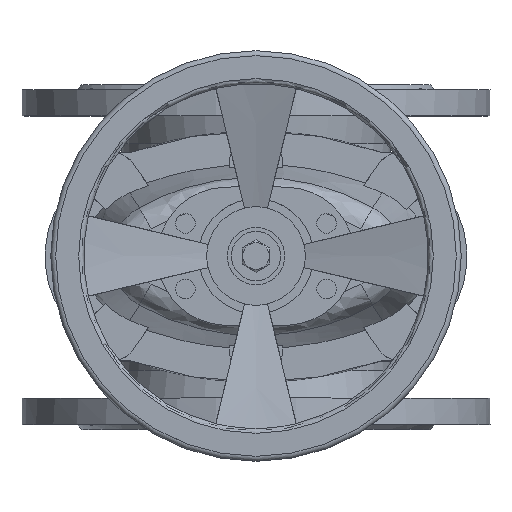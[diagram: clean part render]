
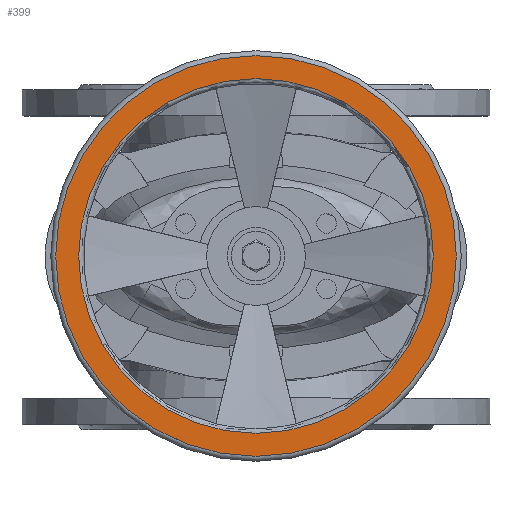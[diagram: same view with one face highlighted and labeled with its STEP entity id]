
A CAD part, top view. The second image highlights one B-rep face of the part: STEP entity #399.
In plain terms, the highlighted planar face has unit normal (0, 0, 1).
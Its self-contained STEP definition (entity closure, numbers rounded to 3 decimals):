
#399=ADVANCED_FACE('',(#2603,#2605),#2607,.T.);
#2603=FACE_BOUND('',#2604,.T.);
#2604=EDGE_LOOP('',(#5147));
#2605=FACE_BOUND('',#2606,.T.);
#2606=EDGE_LOOP('',(#5148));
#2607=PLANE('',#2608);
#2608=AXIS2_PLACEMENT_3D('',#2609,#2610,#2611);
#2609=CARTESIAN_POINT('',(0.,0.,413.));
#2610=DIRECTION('',(0.,0.,1.));
#2611=DIRECTION('',(0.,-1.,0.));
#5147=ORIENTED_EDGE('',*,*,#6417,.T.);
#5148=ORIENTED_EDGE('',*,*,#6387,.F.);
#6387=EDGE_CURVE('',#7108,#7108,#7109,.T.);
#6417=EDGE_CURVE('',#7153,#7153,#7154,.T.);
#7108=VERTEX_POINT('',#8691);
#7109=CIRCLE('',#8692,108.);
#7153=VERTEX_POINT('',#8808);
#7154=CIRCLE('',#8809,122.);
#8691=CARTESIAN_POINT('',(0.,-108.,413.));
#8692=AXIS2_PLACEMENT_3D('',#8693,#8694,#8695);
#8693=CARTESIAN_POINT('',(0.,0.,413.));
#8694=DIRECTION('',(0.,0.,1.));
#8695=DIRECTION('',(0.,-1.,0.));
#8808=CARTESIAN_POINT('',(0.,-122.,413.));
#8809=AXIS2_PLACEMENT_3D('',#8810,#8811,#8812);
#8810=CARTESIAN_POINT('',(0.,0.,413.));
#8811=DIRECTION('',(0.,0.,1.));
#8812=DIRECTION('',(0.,-1.,0.));
